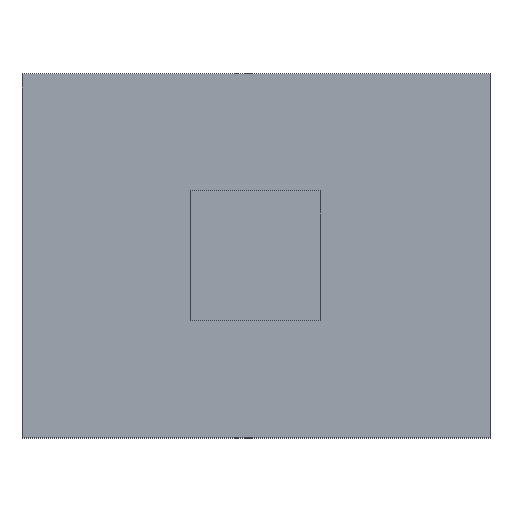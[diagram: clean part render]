
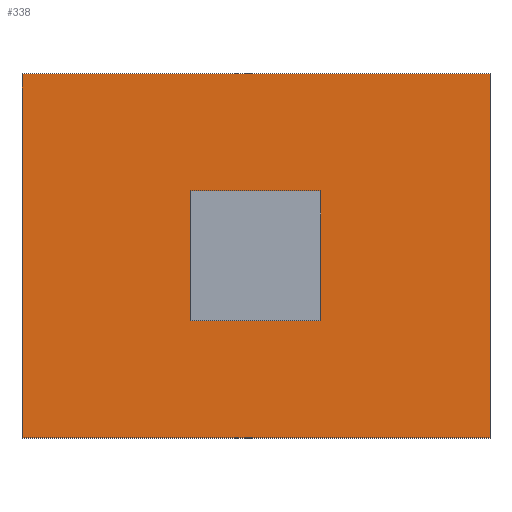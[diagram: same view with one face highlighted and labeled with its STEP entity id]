
A CAD part, top view. The second image highlights one B-rep face of the part: STEP entity #338.
In plain terms, the highlighted planar face has unit normal (0, 0, 1).
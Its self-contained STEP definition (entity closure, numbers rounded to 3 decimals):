
#44 = PLANE('',#45);
#45 = AXIS2_PLACEMENT_3D('',#46,#47,#48);
#46 = CARTESIAN_POINT('',(18.,7.377,1.177));
#47 = DIRECTION('',(1.,0.,0.));
#48 = DIRECTION('',(-0.,0.,1.));
#72 = PLANE('',#73);
#73 = AXIS2_PLACEMENT_3D('',#74,#75,#76);
#74 = CARTESIAN_POINT('',(8.618,0.,1.182));
#75 = DIRECTION('',(-0.,-1.,-0.));
#76 = DIRECTION('',(0.,0.,-1.));
#100 = PLANE('',#101);
#101 = AXIS2_PLACEMENT_3D('',#102,#103,#104);
#102 = CARTESIAN_POINT('',(0.,7.377,0.423));
#103 = DIRECTION('',(-1.,-0.,-0.));
#104 = DIRECTION('',(0.,0.,-1.));
#126 = PLANE('',#127);
#127 = AXIS2_PLACEMENT_3D('',#128,#129,#130);
#128 = CARTESIAN_POINT('',(9.382,14.,1.182));
#129 = DIRECTION('',(0.,1.,0.));
#130 = DIRECTION('',(0.,-0.,1.));
#142 = VERTEX_POINT('',#143);
#143 = CARTESIAN_POINT('',(18.,14.,1.6));
#164 = EDGE_CURVE('',#165,#142,#167,.T.);
#165 = VERTEX_POINT('',#166);
#166 = CARTESIAN_POINT('',(18.,0.,1.6));
#167 = SURFACE_CURVE('',#168,(#172,#179),.PCURVE_S1.);
#168 = LINE('',#169,#170);
#169 = CARTESIAN_POINT('',(18.,0.,1.6));
#170 = VECTOR('',#171,1.);
#171 = DIRECTION('',(0.,1.,0.));
#172 = PCURVE('',#44,#173);
#173 = DEFINITIONAL_REPRESENTATION('',(#174),#178);
#174 = LINE('',#175,#176);
#175 = CARTESIAN_POINT('',(0.423,7.377));
#176 = VECTOR('',#177,1.);
#177 = DIRECTION('',(0.,-1.));
#178 = ( GEOMETRIC_REPRESENTATION_CONTEXT(2) 
PARAMETRIC_REPRESENTATION_CONTEXT() REPRESENTATION_CONTEXT('2D SPACE',''
  ) );
#179 = PCURVE('',#180,#185);
#180 = PLANE('',#181);
#181 = AXIS2_PLACEMENT_3D('',#182,#183,#184);
#182 = CARTESIAN_POINT('',(16.112,7.349,1.6));
#183 = DIRECTION('',(0.,0.,1.));
#184 = DIRECTION('',(1.,0.,-0.));
#185 = DEFINITIONAL_REPRESENTATION('',(#186),#190);
#186 = LINE('',#187,#188);
#187 = CARTESIAN_POINT('',(1.888,-7.349));
#188 = VECTOR('',#189,1.);
#189 = DIRECTION('',(0.,1.));
#190 = ( GEOMETRIC_REPRESENTATION_CONTEXT(2) 
PARAMETRIC_REPRESENTATION_CONTEXT() REPRESENTATION_CONTEXT('2D SPACE',''
  ) );
#218 = VERTEX_POINT('',#219);
#219 = CARTESIAN_POINT('',(0.,14.,1.6));
#242 = VERTEX_POINT('',#243);
#243 = CARTESIAN_POINT('',(0.,0.,1.6));
#264 = EDGE_CURVE('',#218,#242,#265,.T.);
#265 = SURFACE_CURVE('',#266,(#270,#277),.PCURVE_S1.);
#266 = LINE('',#267,#268);
#267 = CARTESIAN_POINT('',(0.,14.,1.6));
#268 = VECTOR('',#269,1.);
#269 = DIRECTION('',(0.,-1.,0.));
#270 = PCURVE('',#100,#271);
#271 = DEFINITIONAL_REPRESENTATION('',(#272),#276);
#272 = LINE('',#273,#274);
#273 = CARTESIAN_POINT('',(-1.177,-6.623));
#274 = VECTOR('',#275,1.);
#275 = DIRECTION('',(0.,1.));
#276 = ( GEOMETRIC_REPRESENTATION_CONTEXT(2) 
PARAMETRIC_REPRESENTATION_CONTEXT() REPRESENTATION_CONTEXT('2D SPACE',''
  ) );
#277 = PCURVE('',#180,#278);
#278 = DEFINITIONAL_REPRESENTATION('',(#279),#283);
#279 = LINE('',#280,#281);
#280 = CARTESIAN_POINT('',(-16.112,6.651));
#281 = VECTOR('',#282,1.);
#282 = DIRECTION('',(0.,-1.));
#283 = ( GEOMETRIC_REPRESENTATION_CONTEXT(2) 
PARAMETRIC_REPRESENTATION_CONTEXT() REPRESENTATION_CONTEXT('2D SPACE',''
  ) );
#288 = EDGE_CURVE('',#165,#242,#289,.T.);
#289 = SURFACE_CURVE('',#290,(#294,#301),.PCURVE_S1.);
#290 = LINE('',#291,#292);
#291 = CARTESIAN_POINT('',(18.,0.,1.6));
#292 = VECTOR('',#293,1.);
#293 = DIRECTION('',(-1.,0.,0.));
#294 = PCURVE('',#72,#295);
#295 = DEFINITIONAL_REPRESENTATION('',(#296),#300);
#296 = LINE('',#297,#298);
#297 = CARTESIAN_POINT('',(-0.418,9.382));
#298 = VECTOR('',#299,1.);
#299 = DIRECTION('',(0.,-1.));
#300 = ( GEOMETRIC_REPRESENTATION_CONTEXT(2) 
PARAMETRIC_REPRESENTATION_CONTEXT() REPRESENTATION_CONTEXT('2D SPACE',''
  ) );
#301 = PCURVE('',#180,#302);
#302 = DEFINITIONAL_REPRESENTATION('',(#303),#307);
#303 = LINE('',#304,#305);
#304 = CARTESIAN_POINT('',(1.888,-7.349));
#305 = VECTOR('',#306,1.);
#306 = DIRECTION('',(-1.,0.));
#307 = ( GEOMETRIC_REPRESENTATION_CONTEXT(2) 
PARAMETRIC_REPRESENTATION_CONTEXT() REPRESENTATION_CONTEXT('2D SPACE',''
  ) );
#315 = EDGE_CURVE('',#142,#218,#316,.T.);
#316 = SURFACE_CURVE('',#317,(#321,#328),.PCURVE_S1.);
#317 = LINE('',#318,#319);
#318 = CARTESIAN_POINT('',(18.,14.,1.6));
#319 = VECTOR('',#320,1.);
#320 = DIRECTION('',(-1.,0.,0.));
#321 = PCURVE('',#126,#322);
#322 = DEFINITIONAL_REPRESENTATION('',(#323),#327);
#323 = LINE('',#324,#325);
#324 = CARTESIAN_POINT('',(0.418,8.618));
#325 = VECTOR('',#326,1.);
#326 = DIRECTION('',(0.,-1.));
#327 = ( GEOMETRIC_REPRESENTATION_CONTEXT(2) 
PARAMETRIC_REPRESENTATION_CONTEXT() REPRESENTATION_CONTEXT('2D SPACE',''
  ) );
#328 = PCURVE('',#180,#329);
#329 = DEFINITIONAL_REPRESENTATION('',(#330),#334);
#330 = LINE('',#331,#332);
#331 = CARTESIAN_POINT('',(1.888,6.651));
#332 = VECTOR('',#333,1.);
#333 = DIRECTION('',(-1.,0.));
#334 = ( GEOMETRIC_REPRESENTATION_CONTEXT(2) 
PARAMETRIC_REPRESENTATION_CONTEXT() REPRESENTATION_CONTEXT('2D SPACE',''
  ) );
#338 = ADVANCED_FACE('',(#339,#345),#180,.T.);
#339 = FACE_BOUND('',#340,.T.);
#340 = EDGE_LOOP('',(#341,#342,#343,#344));
#341 = ORIENTED_EDGE('',*,*,#164,.T.);
#342 = ORIENTED_EDGE('',*,*,#315,.T.);
#343 = ORIENTED_EDGE('',*,*,#264,.T.);
#344 = ORIENTED_EDGE('',*,*,#288,.F.);
#345 = FACE_BOUND('',#346,.T.);
#346 = EDGE_LOOP('',(#347,#377,#405,#433));
#347 = ORIENTED_EDGE('',*,*,#348,.F.);
#348 = EDGE_CURVE('',#349,#351,#353,.T.);
#349 = VERTEX_POINT('',#350);
#350 = CARTESIAN_POINT('',(11.5,9.5,1.6));
#351 = VERTEX_POINT('',#352);
#352 = CARTESIAN_POINT('',(6.5,9.5,1.6));
#353 = SURFACE_CURVE('',#354,(#358,#365),.PCURVE_S1.);
#354 = LINE('',#355,#356);
#355 = CARTESIAN_POINT('',(11.5,9.5,1.6));
#356 = VECTOR('',#357,1.);
#357 = DIRECTION('',(-1.,0.,0.));
#358 = PCURVE('',#180,#359);
#359 = DEFINITIONAL_REPRESENTATION('',(#360),#364);
#360 = LINE('',#361,#362);
#361 = CARTESIAN_POINT('',(-4.612,2.151));
#362 = VECTOR('',#363,1.);
#363 = DIRECTION('',(-1.,0.));
#364 = ( GEOMETRIC_REPRESENTATION_CONTEXT(2) 
PARAMETRIC_REPRESENTATION_CONTEXT() REPRESENTATION_CONTEXT('2D SPACE',''
  ) );
#365 = PCURVE('',#366,#371);
#366 = PLANE('',#367);
#367 = AXIS2_PLACEMENT_3D('',#368,#369,#370);
#368 = CARTESIAN_POINT('',(9.542,9.5,3.642));
#369 = DIRECTION('',(0.,1.,0.));
#370 = DIRECTION('',(0.,-0.,1.));
#371 = DEFINITIONAL_REPRESENTATION('',(#372),#376);
#372 = LINE('',#373,#374);
#373 = CARTESIAN_POINT('',(-2.042,1.958));
#374 = VECTOR('',#375,1.);
#375 = DIRECTION('',(0.,-1.));
#376 = ( GEOMETRIC_REPRESENTATION_CONTEXT(2) 
PARAMETRIC_REPRESENTATION_CONTEXT() REPRESENTATION_CONTEXT('2D SPACE',''
  ) );
#377 = ORIENTED_EDGE('',*,*,#378,.T.);
#378 = EDGE_CURVE('',#349,#379,#381,.T.);
#379 = VERTEX_POINT('',#380);
#380 = CARTESIAN_POINT('',(11.5,4.5,1.6));
#381 = SURFACE_CURVE('',#382,(#386,#393),.PCURVE_S1.);
#382 = LINE('',#383,#384);
#383 = CARTESIAN_POINT('',(11.5,9.5,1.6));
#384 = VECTOR('',#385,1.);
#385 = DIRECTION('',(0.,-1.,0.));
#386 = PCURVE('',#180,#387);
#387 = DEFINITIONAL_REPRESENTATION('',(#388),#392);
#388 = LINE('',#389,#390);
#389 = CARTESIAN_POINT('',(-4.612,2.151));
#390 = VECTOR('',#391,1.);
#391 = DIRECTION('',(0.,-1.));
#392 = ( GEOMETRIC_REPRESENTATION_CONTEXT(2) 
PARAMETRIC_REPRESENTATION_CONTEXT() REPRESENTATION_CONTEXT('2D SPACE',''
  ) );
#393 = PCURVE('',#394,#399);
#394 = PLANE('',#395);
#395 = AXIS2_PLACEMENT_3D('',#396,#397,#398);
#396 = CARTESIAN_POINT('',(11.5,7.542,3.642));
#397 = DIRECTION('',(1.,0.,0.));
#398 = DIRECTION('',(-0.,0.,1.));
#399 = DEFINITIONAL_REPRESENTATION('',(#400),#404);
#400 = LINE('',#401,#402);
#401 = CARTESIAN_POINT('',(-2.042,-1.958));
#402 = VECTOR('',#403,1.);
#403 = DIRECTION('',(0.,1.));
#404 = ( GEOMETRIC_REPRESENTATION_CONTEXT(2) 
PARAMETRIC_REPRESENTATION_CONTEXT() REPRESENTATION_CONTEXT('2D SPACE',''
  ) );
#405 = ORIENTED_EDGE('',*,*,#406,.F.);
#406 = EDGE_CURVE('',#407,#379,#409,.T.);
#407 = VERTEX_POINT('',#408);
#408 = CARTESIAN_POINT('',(6.5,4.5,1.6));
#409 = SURFACE_CURVE('',#410,(#414,#421),.PCURVE_S1.);
#410 = LINE('',#411,#412);
#411 = CARTESIAN_POINT('',(6.5,4.5,1.6));
#412 = VECTOR('',#413,1.);
#413 = DIRECTION('',(1.,0.,0.));
#414 = PCURVE('',#180,#415);
#415 = DEFINITIONAL_REPRESENTATION('',(#416),#420);
#416 = LINE('',#417,#418);
#417 = CARTESIAN_POINT('',(-9.612,-2.849));
#418 = VECTOR('',#419,1.);
#419 = DIRECTION('',(1.,0.));
#420 = ( GEOMETRIC_REPRESENTATION_CONTEXT(2) 
PARAMETRIC_REPRESENTATION_CONTEXT() REPRESENTATION_CONTEXT('2D SPACE',''
  ) );
#421 = PCURVE('',#422,#427);
#422 = PLANE('',#423);
#423 = AXIS2_PLACEMENT_3D('',#424,#425,#426);
#424 = CARTESIAN_POINT('',(8.458,4.5,3.642));
#425 = DIRECTION('',(-0.,-1.,-0.));
#426 = DIRECTION('',(0.,0.,-1.));
#427 = DEFINITIONAL_REPRESENTATION('',(#428),#432);
#428 = LINE('',#429,#430);
#429 = CARTESIAN_POINT('',(2.042,-1.958));
#430 = VECTOR('',#431,1.);
#431 = DIRECTION('',(0.,1.));
#432 = ( GEOMETRIC_REPRESENTATION_CONTEXT(2) 
PARAMETRIC_REPRESENTATION_CONTEXT() REPRESENTATION_CONTEXT('2D SPACE',''
  ) );
#433 = ORIENTED_EDGE('',*,*,#434,.F.);
#434 = EDGE_CURVE('',#351,#407,#435,.T.);
#435 = SURFACE_CURVE('',#436,(#440,#447),.PCURVE_S1.);
#436 = LINE('',#437,#438);
#437 = CARTESIAN_POINT('',(6.5,9.5,1.6));
#438 = VECTOR('',#439,1.);
#439 = DIRECTION('',(0.,-1.,0.));
#440 = PCURVE('',#180,#441);
#441 = DEFINITIONAL_REPRESENTATION('',(#442),#446);
#442 = LINE('',#443,#444);
#443 = CARTESIAN_POINT('',(-9.612,2.151));
#444 = VECTOR('',#445,1.);
#445 = DIRECTION('',(0.,-1.));
#446 = ( GEOMETRIC_REPRESENTATION_CONTEXT(2) 
PARAMETRIC_REPRESENTATION_CONTEXT() REPRESENTATION_CONTEXT('2D SPACE',''
  ) );
#447 = PCURVE('',#448,#453);
#448 = PLANE('',#449);
#449 = AXIS2_PLACEMENT_3D('',#450,#451,#452);
#450 = CARTESIAN_POINT('',(6.5,7.542,2.558));
#451 = DIRECTION('',(-1.,-0.,-0.));
#452 = DIRECTION('',(0.,0.,-1.));
#453 = DEFINITIONAL_REPRESENTATION('',(#454),#458);
#454 = LINE('',#455,#456);
#455 = CARTESIAN_POINT('',(0.958,-1.958));
#456 = VECTOR('',#457,1.);
#457 = DIRECTION('',(0.,1.));
#458 = ( GEOMETRIC_REPRESENTATION_CONTEXT(2) 
PARAMETRIC_REPRESENTATION_CONTEXT() REPRESENTATION_CONTEXT('2D SPACE',''
  ) );
